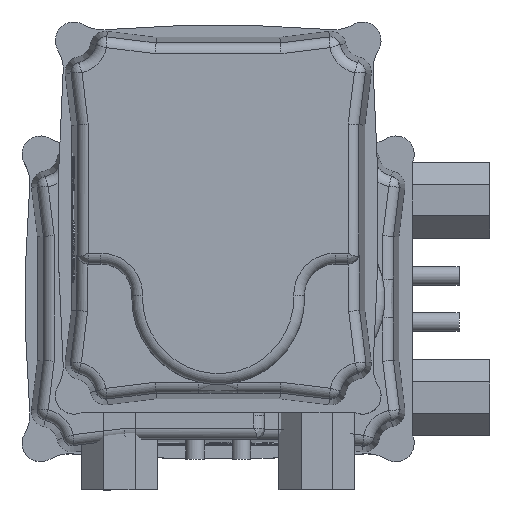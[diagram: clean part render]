
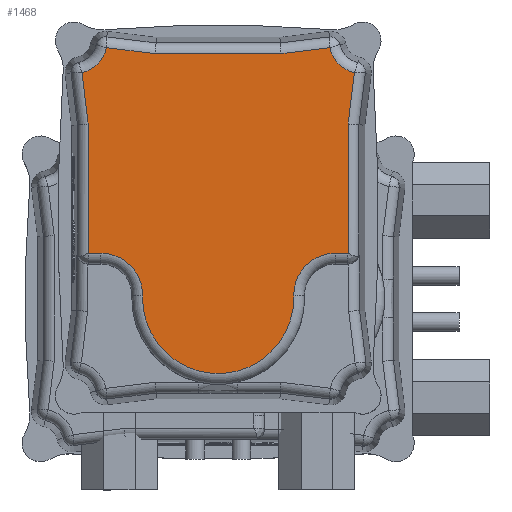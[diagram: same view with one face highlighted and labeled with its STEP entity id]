
A CAD part, top view. The second image highlights one B-rep face of the part: STEP entity #1468.
In plain terms, the highlighted planar face has unit normal (0, 0, 1).
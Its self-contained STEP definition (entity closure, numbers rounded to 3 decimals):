
#1468 = ADVANCED_FACE( '', ( #3287 ), #3288, .T. );
#3287 = FACE_OUTER_BOUND( '', #8205, .T. );
#3288 = PLANE( '', #8206 );
#8205 = EDGE_LOOP( '', ( #14992, #14993, #14994, #14995, #14996, #14997, #14998, #14999, #15000, #15001, #15002, #15003, #15004, #15005, #15006, #15007 ) );
#8206 = AXIS2_PLACEMENT_3D( '', #15008, #15009, #15010 );
#14992 = ORIENTED_EDGE( '', *, *, #18362, .T. );
#14993 = ORIENTED_EDGE( '', *, *, #19253, .T. );
#14994 = ORIENTED_EDGE( '', *, *, #18010, .T. );
#14995 = ORIENTED_EDGE( '', *, *, #18306, .T. );
#14996 = ORIENTED_EDGE( '', *, *, #19254, .T. );
#14997 = ORIENTED_EDGE( '', *, *, #18796, .T. );
#14998 = ORIENTED_EDGE( '', *, *, #18122, .T. );
#14999 = ORIENTED_EDGE( '', *, *, #19255, .T. );
#15000 = ORIENTED_EDGE( '', *, *, #18516, .T. );
#15001 = ORIENTED_EDGE( '', *, *, #19256, .T. );
#15002 = ORIENTED_EDGE( '', *, *, #18930, .T. );
#15003 = ORIENTED_EDGE( '', *, *, #18392, .T. );
#15004 = ORIENTED_EDGE( '', *, *, #19257, .T. );
#15005 = ORIENTED_EDGE( '', *, *, #19258, .T. );
#15006 = ORIENTED_EDGE( '', *, *, #18368, .T. );
#15007 = ORIENTED_EDGE( '', *, *, #19063, .T. );
#15008 = CARTESIAN_POINT( '', ( 47.227, -44.578, 84. ) );
#15009 = DIRECTION( '', ( 0., 0., 1. ) );
#15010 = DIRECTION( '', ( 1., 0., 0. ) );
#18010 = EDGE_CURVE( '', #20624, #20622, #20625, .F. );
#18122 = EDGE_CURVE( '', #20817, #20815, #20818, .T. );
#18306 = EDGE_CURVE( '', #20622, #21103, #21105, .T. );
#18362 = EDGE_CURVE( '', #21187, #21192, #21194, .T. );
#18368 = EDGE_CURVE( '', #21199, #20123, #21201, .F. );
#18392 = EDGE_CURVE( '', #21240, #21238, #21241, .T. );
#18516 = EDGE_CURVE( '', #21434, #21432, #21435, .T. );
#18796 = EDGE_CURVE( '', #21866, #20817, #21867, .T. );
#18930 = EDGE_CURVE( '', #22058, #21240, #22060, .T. );
#19063 = EDGE_CURVE( '', #20123, #21187, #22241, .T. );
#19253 = EDGE_CURVE( '', #21192, #20624, #22478, .T. );
#19254 = EDGE_CURVE( '', #21103, #21866, #22479, .T. );
#19255 = EDGE_CURVE( '', #20815, #21434, #22480, .F. );
#19256 = EDGE_CURVE( '', #21432, #22058, #22481, .F. );
#19257 = EDGE_CURVE( '', #21238, #22482, #22483, .T. );
#19258 = EDGE_CURVE( '', #22482, #21199, #22484, .T. );
#20123 = VERTEX_POINT( '', #23943 );
#20622 = VERTEX_POINT( '', #25691 );
#20624 = VERTEX_POINT( '', #25712 );
#20625 = CIRCLE( '', #25713, 10.907 );
#20815 = VERTEX_POINT( '', #26102 );
#20817 = VERTEX_POINT( '', #26104 );
#20818 = LINE( '', #26105, #26106 );
#21103 = VERTEX_POINT( '', #26835 );
#21105 = LINE( '', #26837, #26838 );
#21187 = VERTEX_POINT( '', #26980 );
#21192 = VERTEX_POINT( '', #26986 );
#21194 = LINE( '', #26988, #26989 );
#21199 = VERTEX_POINT( '', #26996 );
#21201 = CIRCLE( '', #27017, 10.907 );
#21238 = VERTEX_POINT( '', #27235 );
#21240 = VERTEX_POINT( '', #27258 );
#21241 = CIRCLE( '', #27259, 0.5 );
#21432 = VERTEX_POINT( '', #27655 );
#21434 = VERTEX_POINT( '', #27657 );
#21435 = CIRCLE( '', #27658, 24.5 );
#21866 = VERTEX_POINT( '', #28551 );
#21867 = CIRCLE( '', #28552, 0.5 );
#22058 = VERTEX_POINT( '', #29406 );
#22060 = LINE( '', #29408, #29409 );
#22241 = LINE( '', #29819, #29820 );
#22478 = LINE( '', #30265, #30266 );
#22479 = LINE( '', #30267, #30268 );
#22480 = CIRCLE( '', #30269, 13.5 );
#22481 = CIRCLE( '', #30270, 13.5 );
#22482 = VERTEX_POINT( '', #30271 );
#22483 = LINE( '', #30272, #30273 );
#22484 = LINE( '', #30274, #30275 );
#23943 = CARTESIAN_POINT( '', ( -55.033, 36.126, 84. ) );
#25691 = CARTESIAN_POINT( '', ( -46.913, -44.129, 84. ) );
#25712 = CARTESIAN_POINT( '', ( -55.033, -36.126, 84. ) );
#25713 = AXIS2_PLACEMENT_3D( '', #31804, #31805, #31806 );
#26102 = CARTESIAN_POINT( '', ( 11.5, -37.987, 84. ) );
#26104 = CARTESIAN_POINT( '', ( 11.5, -42., 84. ) );
#26105 = CARTESIAN_POINT( '', ( 11.5, -44.578, 84. ) );
#26106 = VECTOR( '', #31909, 1000. );
#26835 = CARTESIAN_POINT( '', ( -30.331, -42.093, 84. ) );
#26837 = CARTESIAN_POINT( '', ( 45.775, -32.749, 84. ) );
#26838 = VECTOR( '', #32062, 1000. );
#26980 = CARTESIAN_POINT( '', ( -53.093, 20.331, 84. ) );
#26986 = CARTESIAN_POINT( '', ( -53.093, -20.331, 84. ) );
#26988 = CARTESIAN_POINT( '', ( -53.093, -44.578, 84. ) );
#26989 = VECTOR( '', #32114, 1000. );
#26996 = CARTESIAN_POINT( '', ( -46.913, 44.129, 84. ) );
#27017 = AXIS2_PLACEMENT_3D( '', #32116, #32117, #32118 );
#27235 = CARTESIAN_POINT( '', ( 11.491, 42.093, 84. ) );
#27258 = CARTESIAN_POINT( '', ( 11.5, 42., 84. ) );
#27259 = AXIS2_PLACEMENT_3D( '', #32141, #32142, #32143 );
#27655 = CARTESIAN_POINT( '', ( 25.355, 24.492, 84. ) );
#27657 = CARTESIAN_POINT( '', ( 25.355, -24.492, 84. ) );
#27658 = AXIS2_PLACEMENT_3D( '', #32273, #32274, #32275 );
#28551 = CARTESIAN_POINT( '', ( 11.491, -42.093, 84. ) );
#28552 = AXIS2_PLACEMENT_3D( '', #32558, #32559, #32560 );
#29406 = CARTESIAN_POINT( '', ( 11.5, 37.987, 84. ) );
#29408 = CARTESIAN_POINT( '', ( 11.5, -44.578, 84. ) );
#29409 = VECTOR( '', #32650, 1000. );
#29819 = CARTESIAN_POINT( '', ( -43.752, -55.749, 84. ) );
#29820 = VECTOR( '', #32772, 1000. );
#30265 = CARTESIAN_POINT( '', ( -54.536, -32.083, 84. ) );
#30266 = VECTOR( '', #32900, 1000. );
#30267 = CARTESIAN_POINT( '', ( 47.227, -42.093, 84. ) );
#30268 = VECTOR( '', #32901, 1000. );
#30269 = AXIS2_PLACEMENT_3D( '', #32902, #32903, #32904 );
#30270 = AXIS2_PLACEMENT_3D( '', #32905, #32906, #32907 );
#30271 = CARTESIAN_POINT( '', ( -30.331, 42.093, 84. ) );
#30272 = CARTESIAN_POINT( '', ( 47.227, 42.093, 84. ) );
#30273 = VECTOR( '', #32908, 1000. );
#30274 = CARTESIAN_POINT( '', ( 56.559, 31.425, 84. ) );
#30275 = VECTOR( '', #32909, 1000. );
#31804 = CARTESIAN_POINT( '', ( -57.5, -46.75, 84. ) );
#31805 = DIRECTION( '', ( 0., 0., 1. ) );
#31806 = DIRECTION( '', ( 1., 0., 0. ) );
#31909 = DIRECTION( '', ( 0., 1., 0. ) );
#32062 = DIRECTION( '', ( 0.993, 0.122, 0. ) );
#32114 = DIRECTION( '', ( 0., -1., 0. ) );
#32116 = CARTESIAN_POINT( '', ( -57.5, 46.75, 84. ) );
#32117 = DIRECTION( '', ( 0., 0., 1. ) );
#32118 = DIRECTION( '', ( 1., 0., 0. ) );
#32141 = CARTESIAN_POINT( '', ( 11., 42., 84. ) );
#32142 = DIRECTION( '', ( 0., 0., 1. ) );
#32143 = DIRECTION( '', ( 1., 0., 0. ) );
#32273 = CARTESIAN_POINT( '', ( 26., 0., 84. ) );
#32274 = DIRECTION( '', ( 0., 0., 1. ) );
#32275 = DIRECTION( '', ( 1., 0., 0. ) );
#32558 = CARTESIAN_POINT( '', ( 11., -42., 84. ) );
#32559 = DIRECTION( '', ( 0., 0., 1. ) );
#32560 = DIRECTION( '', ( 1., 0., 0. ) );
#32650 = DIRECTION( '', ( 0., 1., 0. ) );
#32772 = DIRECTION( '', ( 0.122, -0.993, 0. ) );
#32900 = DIRECTION( '', ( -0.122, -0.993, 0. ) );
#32901 = DIRECTION( '', ( 1., 0., 0. ) );
#32902 = CARTESIAN_POINT( '', ( 25., -37.987, 84. ) );
#32903 = DIRECTION( '', ( 0., 0., 1. ) );
#32904 = DIRECTION( '', ( 1., 0., 0. ) );
#32905 = CARTESIAN_POINT( '', ( 25., 37.987, 84. ) );
#32906 = DIRECTION( '', ( 0., 0., 1. ) );
#32907 = DIRECTION( '', ( 1., 0., 0. ) );
#32908 = DIRECTION( '', ( -1., 0., 0. ) );
#32909 = DIRECTION( '', ( -0.993, 0.122, 0. ) );
